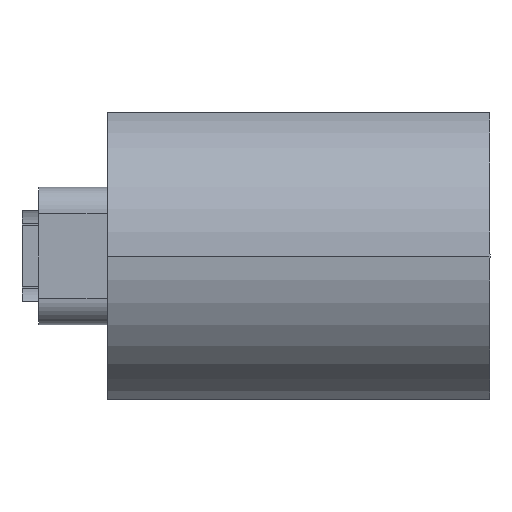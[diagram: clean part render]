
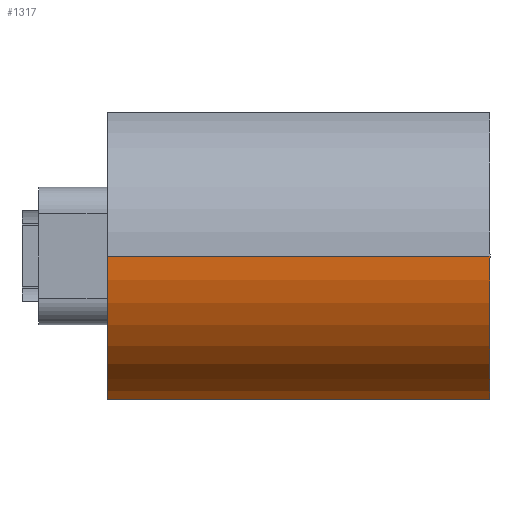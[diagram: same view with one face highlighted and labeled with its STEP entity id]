
A CAD part, front view. The second image highlights one B-rep face of the part: STEP entity #1317.
In plain terms, the highlighted cylindrical face has radius 19.5 mm (diameter 39 mm), a partial arc.
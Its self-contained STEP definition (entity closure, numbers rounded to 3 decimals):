
#101 = CARTESIAN_POINT ( 'NONE',  ( 0., -19.5, 0. ) ) ;
#112 = VECTOR ( 'NONE', #729, 1000. ) ;
#178 = DIRECTION ( 'NONE',  ( 0., -1., 0. ) ) ;
#245 = DIRECTION ( 'NONE',  ( -1., 0., 0. ) ) ;
#257 = CARTESIAN_POINT ( 'NONE',  ( -50., 0., 0. ) ) ;
#729 = DIRECTION ( 'NONE',  ( -1., 0., 0. ) ) ;
#759 = ORIENTED_EDGE ( 'NONE', *, *, #2681, .F. ) ;
#788 = FACE_OUTER_BOUND ( 'NONE', #1802, .T. ) ;
#853 = CIRCLE ( 'NONE', #1550, 19.5 ) ;
#895 = CIRCLE ( 'NONE', #3226, 19.5 ) ;
#1024 = CARTESIAN_POINT ( 'NONE',  ( -50., -5.356, -18.75 ) ) ;
#1058 = VERTEX_POINT ( 'NONE', #2890 ) ;
#1317 = ADVANCED_FACE ( 'NONE', ( #788 ), #2540, .T. ) ;
#1396 = ORIENTED_EDGE ( 'NONE', *, *, #2138, .F. ) ;
#1497 = AXIS2_PLACEMENT_3D ( 'NONE', #2574, #2544, #3232 ) ;
#1550 = AXIS2_PLACEMENT_3D ( 'NONE', #257, #245, #178 ) ;
#1576 = VERTEX_POINT ( 'NONE', #1024 ) ;
#1802 = EDGE_LOOP ( 'NONE', ( #2764, #3170, #759, #1396 ) ) ;
#2129 = LINE ( 'NONE', #2735, #3124 ) ;
#2138 = EDGE_CURVE ( 'NONE', #2716, #1576, #2129, .T. ) ;
#2320 = EDGE_CURVE ( 'NONE', #1058, #2994, #2771, .T. ) ;
#2390 = CARTESIAN_POINT ( 'NONE',  ( -50., -19.5, 0. ) ) ;
#2540 = CYLINDRICAL_SURFACE ( 'NONE', #1497, 19.5 ) ;
#2544 = DIRECTION ( 'NONE',  ( -1., 0., 0. ) ) ;
#2566 = DIRECTION ( 'NONE',  ( 0., -1., 0. ) ) ;
#2574 = CARTESIAN_POINT ( 'NONE',  ( 0., 0., 0. ) ) ;
#2575 = DIRECTION ( 'NONE',  ( 1., 0., 0. ) ) ;
#2593 = CARTESIAN_POINT ( 'NONE',  ( 0., 0., 0. ) ) ;
#2681 = EDGE_CURVE ( 'NONE', #1576, #2994, #853, .T. ) ;
#2690 = DIRECTION ( 'NONE',  ( -1., 0., 0. ) ) ;
#2716 = VERTEX_POINT ( 'NONE', #2875 ) ;
#2735 = CARTESIAN_POINT ( 'NONE',  ( -50., -5.356, -18.75 ) ) ;
#2764 = ORIENTED_EDGE ( 'NONE', *, *, #2905, .F. ) ;
#2771 = LINE ( 'NONE', #101, #112 ) ;
#2875 = CARTESIAN_POINT ( 'NONE',  ( 0., -5.356, -18.75 ) ) ;
#2890 = CARTESIAN_POINT ( 'NONE',  ( 0., -19.5, 0. ) ) ;
#2905 = EDGE_CURVE ( 'NONE', #1058, #2716, #895, .T. ) ;
#2994 = VERTEX_POINT ( 'NONE', #2390 ) ;
#3124 = VECTOR ( 'NONE', #2690, 1000. ) ;
#3170 = ORIENTED_EDGE ( 'NONE', *, *, #2320, .T. ) ;
#3226 = AXIS2_PLACEMENT_3D ( 'NONE', #2593, #2575, #2566 ) ;
#3232 = DIRECTION ( 'NONE',  ( 0., -1., 0. ) ) ;
